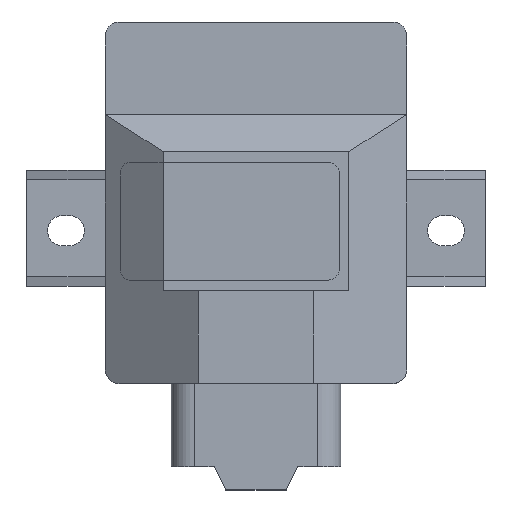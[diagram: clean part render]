
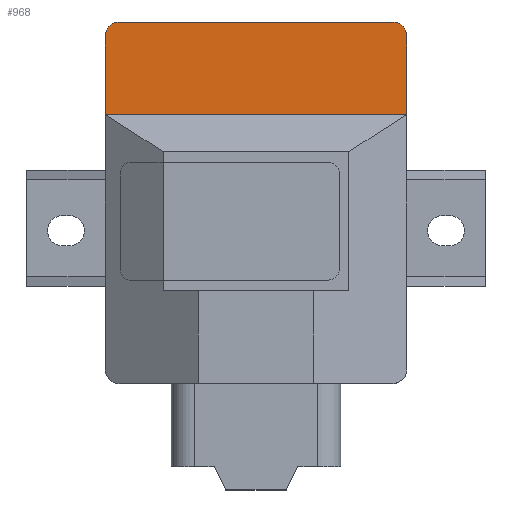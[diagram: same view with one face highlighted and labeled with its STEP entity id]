
A CAD part, top view. The second image highlights one B-rep face of the part: STEP entity #968.
In plain terms, the highlighted planar face has unit normal (0, 0, 1).
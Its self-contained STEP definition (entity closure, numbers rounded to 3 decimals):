
#46=DIRECTION('',(0.,-1.,0.));
#47=VECTOR('',#46,17.);
#48=CARTESIAN_POINT('',(-32.5,75.,11.));
#49=LINE('',#48,#47);
#75=CARTESIAN_POINT('',(29.5,75.,11.));
#76=DIRECTION('',(0.,0.,1.));
#77=DIRECTION('',(1.,0.,0.));
#78=AXIS2_PLACEMENT_3D('',#75,#76,#77);
#80=DIRECTION('',(1.,0.,0.));
#81=VECTOR('',#80,65.);
#82=CARTESIAN_POINT('',(-32.5,58.,11.));
#83=LINE('',#82,#81);
#84=CARTESIAN_POINT('',(-29.5,75.,11.));
#85=DIRECTION('',(0.,0.,1.));
#86=DIRECTION('',(0.,1.,0.));
#87=AXIS2_PLACEMENT_3D('',#84,#85,#86);
#89=DIRECTION('',(1.,0.,0.));
#90=VECTOR('',#89,59.);
#91=CARTESIAN_POINT('',(-29.5,78.,11.));
#92=LINE('',#91,#90);
#341=DIRECTION('',(0.,-1.,0.));
#342=VECTOR('',#341,17.);
#343=CARTESIAN_POINT('',(32.5,75.,11.));
#344=LINE('',#343,#342);
#710=CARTESIAN_POINT('',(-32.5,58.,11.));
#711=CARTESIAN_POINT('',(32.5,58.,11.));
#712=VERTEX_POINT('',#710);
#713=VERTEX_POINT('',#711);
#835=CARTESIAN_POINT('',(32.5,75.,11.));
#836=CARTESIAN_POINT('',(29.5,78.,11.));
#837=VERTEX_POINT('',#835);
#838=VERTEX_POINT('',#836);
#847=CARTESIAN_POINT('',(-29.5,78.,11.));
#848=VERTEX_POINT('',#847);
#849=CARTESIAN_POINT('',(-32.5,75.,11.));
#850=VERTEX_POINT('',#849);
#951=CARTESIAN_POINT('',(-32.5,78.,11.));
#952=DIRECTION('',(0.,0.,1.));
#953=DIRECTION('',(0.,-1.,0.));
#954=AXIS2_PLACEMENT_3D('',#951,#952,#953);
#955=PLANE('',#954);
#957=ORIENTED_EDGE('',*,*,#956,.F.);
#959=ORIENTED_EDGE('',*,*,#958,.T.);
#960=ORIENTED_EDGE('',*,*,#941,.F.);
#961=ORIENTED_EDGE('',*,*,#894,.F.);
#963=ORIENTED_EDGE('',*,*,#962,.F.);
#965=ORIENTED_EDGE('',*,*,#964,.T.);
#966=EDGE_LOOP('',(#957,#959,#960,#961,#963,#965));
#967=FACE_OUTER_BOUND('',#966,.F.);
#968=ADVANCED_FACE('',(#967),#955,.T.);
#79=CIRCLE('',#78,3.);
#88=CIRCLE('',#87,3.);
#894=EDGE_CURVE('',#850,#712,#49,.T.);
#941=EDGE_CURVE('',#712,#713,#83,.T.);
#956=EDGE_CURVE('',#837,#838,#79,.T.);
#958=EDGE_CURVE('',#837,#713,#344,.T.);
#962=EDGE_CURVE('',#848,#850,#88,.T.);
#964=EDGE_CURVE('',#848,#838,#92,.T.);
